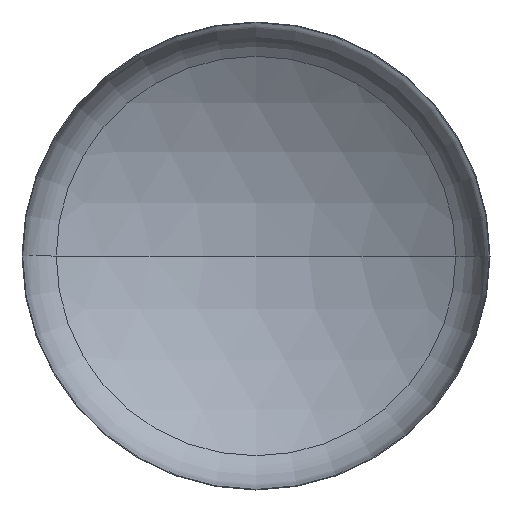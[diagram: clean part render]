
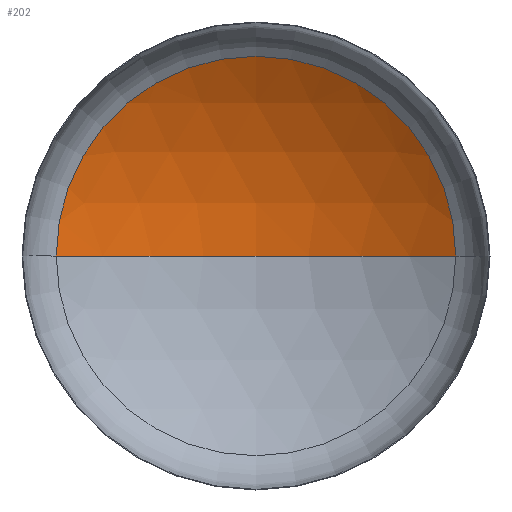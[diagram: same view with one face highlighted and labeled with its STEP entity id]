
A CAD part, front view. The second image highlights one B-rep face of the part: STEP entity #202.
In plain terms, the highlighted spherical face has radius 3040 mm.
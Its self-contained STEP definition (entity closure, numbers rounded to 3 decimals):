
#11 = DIRECTION ( 'NONE',  ( 1., 0., 0. ) ) ;
#12 = AXIS2_PLACEMENT_3D ( 'NONE', #250, #246, #183 ) ;
#14 = DIRECTION ( 'NONE',  ( 0., 0., 1. ) ) ;
#21 = AXIS2_PLACEMENT_3D ( 'NONE', #83, #14, #11 ) ;
#22 = AXIS2_PLACEMENT_3D ( 'NONE', #264, #93, #293 ) ;
#23 = AXIS2_PLACEMENT_3D ( 'NONE', #174, #175, #149 ) ;
#65 = EDGE_CURVE ( 'NONE', #408, #275, #145, .T. ) ;
#68 = EDGE_CURVE ( 'NONE', #219, #408, #363, .T. ) ;
#69 = EDGE_CURVE ( 'NONE', #219, #275, #289, .T. ) ;
#83 = CARTESIAN_POINT ( 'NONE',  ( 0., -2056.277, 0. ) ) ;
#93 = DIRECTION ( 'NONE',  ( 0., 0., -1. ) ) ;
#98 = CARTESIAN_POINT ( 'NONE',  ( 1622.159, 514.754, 0. ) ) ;
#138 = CARTESIAN_POINT ( 'NONE',  ( -1622.159, 514.754, 0. ) ) ;
#145 = CIRCLE ( 'NONE', #23, 1622.159 ) ;
#149 = DIRECTION ( 'NONE',  ( 1., 0., 0. ) ) ;
#151 = ORIENTED_EDGE ( 'NONE', *, *, #69, .F. ) ;
#174 = CARTESIAN_POINT ( 'NONE',  ( 0., 514.754, 0. ) ) ;
#175 = DIRECTION ( 'NONE',  ( 0., -1., 0. ) ) ;
#177 = ORIENTED_EDGE ( 'NONE', *, *, #65, .T. ) ;
#183 = DIRECTION ( 'NONE',  ( -1., 0., 0. ) ) ;
#202 = ADVANCED_FACE ( 'NONE', ( #270 ), #349, .F. ) ;
#219 = VERTEX_POINT ( 'NONE', #249 ) ;
#246 = DIRECTION ( 'NONE',  ( 0., 0., -1. ) ) ;
#249 = CARTESIAN_POINT ( 'NONE',  ( 0., 983.723, 0. ) ) ;
#250 = CARTESIAN_POINT ( 'NONE',  ( 0., -2056.277, 0. ) ) ;
#257 = ORIENTED_EDGE ( 'NONE', *, *, #68, .T. ) ;
#264 = CARTESIAN_POINT ( 'NONE',  ( 0., -2056.277, 0. ) ) ;
#268 = EDGE_LOOP ( 'NONE', ( #151, #257, #177 ) ) ;
#270 = FACE_OUTER_BOUND ( 'NONE', #268, .T. ) ;
#275 = VERTEX_POINT ( 'NONE', #138 ) ;
#289 = CIRCLE ( 'NONE', #21, 3040. ) ;
#293 = DIRECTION ( 'NONE',  ( -1., 0., 0. ) ) ;
#349 = SPHERICAL_SURFACE ( 'NONE', #12, 3040. ) ;
#363 = CIRCLE ( 'NONE', #22, 3040. ) ;
#408 = VERTEX_POINT ( 'NONE', #98 ) ;
